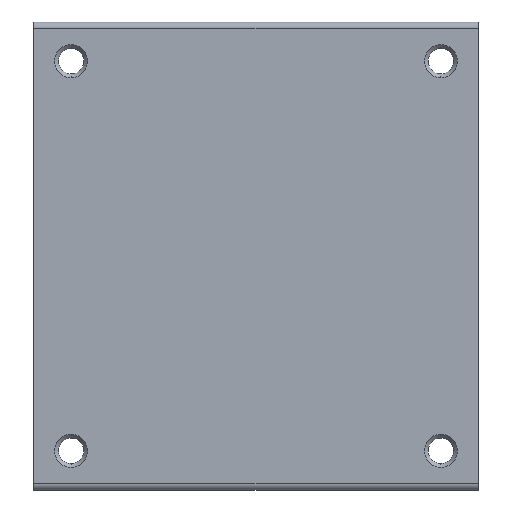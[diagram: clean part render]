
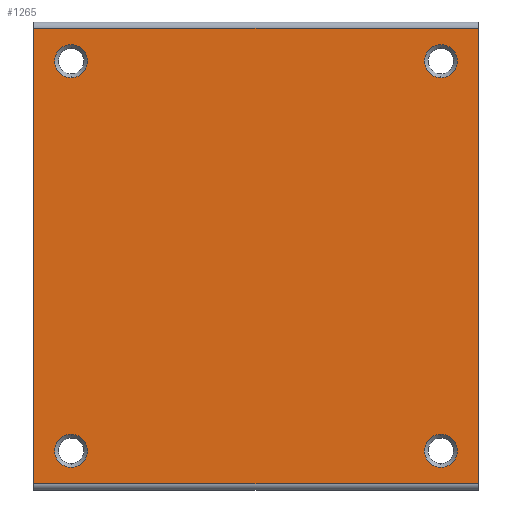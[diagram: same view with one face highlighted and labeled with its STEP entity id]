
A CAD part, front view. The second image highlights one B-rep face of the part: STEP entity #1265.
In plain terms, the highlighted planar face has unit normal (0, -1, 0).
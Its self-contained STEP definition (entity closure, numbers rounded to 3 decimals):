
#92 = EDGE_CURVE ( 'NONE', #1362, #1113, #394, .T. ) ;
#159 = CARTESIAN_POINT ( 'NONE',  ( 24.1, 0., -27.55 ) ) ;
#160 = EDGE_CURVE ( 'NONE', #1856, #747, #2379, .T. ) ;
#187 = DIRECTION ( 'NONE',  ( 0., 1., 0. ) ) ;
#223 = EDGE_CURVE ( 'NONE', #1109, #413, #1919, .T. ) ;
#225 = EDGE_CURVE ( 'NONE', #1856, #902, #673, .T. ) ;
#226 = ORIENTED_EDGE ( 'NONE', *, *, #2508, .T. ) ;
#272 = CIRCLE ( 'NONE', #1876, 2.15 ) ;
#279 = CARTESIAN_POINT ( 'NONE',  ( -24.1, 0., -27.55 ) ) ;
#281 = CARTESIAN_POINT ( 'NONE',  ( -24.1, 0., 25.4 ) ) ;
#315 = CARTESIAN_POINT ( 'NONE',  ( 29., 0., -29.7 ) ) ;
#316 = ORIENTED_EDGE ( 'NONE', *, *, #2646, .T. ) ;
#365 = DIRECTION ( 'NONE',  ( 0., 0., 1. ) ) ;
#372 = VERTEX_POINT ( 'NONE', #1866 ) ;
#385 = CARTESIAN_POINT ( 'NONE',  ( 24.1, 0., 25.4 ) ) ;
#394 = CIRCLE ( 'NONE', #1999, 2.15 ) ;
#399 = VERTEX_POINT ( 'NONE', #1025 ) ;
#406 = DIRECTION ( 'NONE',  ( 0., 0., 1. ) ) ;
#413 = VERTEX_POINT ( 'NONE', #159 ) ;
#414 = CARTESIAN_POINT ( 'NONE',  ( 29., 0., 29.7 ) ) ;
#436 = CARTESIAN_POINT ( 'NONE',  ( -29., 0., 29.7 ) ) ;
#455 = EDGE_LOOP ( 'NONE', ( #2544, #1367, #2712, #2347 ) ) ;
#479 = ORIENTED_EDGE ( 'NONE', *, *, #1269, .T. ) ;
#491 = CARTESIAN_POINT ( 'NONE',  ( 29., 0., 29.7 ) ) ;
#501 = CARTESIAN_POINT ( 'NONE',  ( -24.1, 0., -23.25 ) ) ;
#516 = EDGE_CURVE ( 'NONE', #1343, #1831, #617, .T. ) ;
#617 = CIRCLE ( 'NONE', #999, 2.15 ) ;
#673 = LINE ( 'NONE', #883, #1051 ) ;
#704 = FACE_BOUND ( 'NONE', #1693, .T. ) ;
#738 = DIRECTION ( 'NONE',  ( 0., 0., -1. ) ) ;
#747 = VERTEX_POINT ( 'NONE', #315 ) ;
#763 = ORIENTED_EDGE ( 'NONE', *, *, #92, .T. ) ;
#774 = CARTESIAN_POINT ( 'NONE',  ( 29., 0., 29.7 ) ) ;
#792 = AXIS2_PLACEMENT_3D ( 'NONE', #491, #1370, #2249 ) ;
#807 = CARTESIAN_POINT ( 'NONE',  ( 24.1, 0., 25.4 ) ) ;
#872 = DIRECTION ( 'NONE',  ( -1., 0., 0. ) ) ;
#883 = CARTESIAN_POINT ( 'NONE',  ( 29., 0., 29.7 ) ) ;
#884 = CARTESIAN_POINT ( 'NONE',  ( 24.1, 0., -25.4 ) ) ;
#902 = VERTEX_POINT ( 'NONE', #436 ) ;
#920 = FACE_BOUND ( 'NONE', #1211, .T. ) ;
#942 = CARTESIAN_POINT ( 'NONE',  ( 24.1, 0., 27.55 ) ) ;
#966 = CARTESIAN_POINT ( 'NONE',  ( -24.1, 0., 25.4 ) ) ;
#999 = AXIS2_PLACEMENT_3D ( 'NONE', #1494, #2370, #406 ) ;
#1025 = CARTESIAN_POINT ( 'NONE',  ( -29., 0., -29.7 ) ) ;
#1038 = VECTOR ( 'NONE', #1289, 1000. ) ;
#1051 = VECTOR ( 'NONE', #1760, 1000. ) ;
#1063 = DIRECTION ( 'NONE',  ( 0., 0., 1. ) ) ;
#1066 = CIRCLE ( 'NONE', #2686, 2.15 ) ;
#1109 = VERTEX_POINT ( 'NONE', #2797 ) ;
#1113 = VERTEX_POINT ( 'NONE', #1697 ) ;
#1147 = ORIENTED_EDGE ( 'NONE', *, *, #223, .T. ) ;
#1151 = DIRECTION ( 'NONE',  ( 0., 1., 0. ) ) ;
#1159 = VECTOR ( 'NONE', #872, 1000. ) ;
#1168 = AXIS2_PLACEMENT_3D ( 'NONE', #281, #1151, #2021 ) ;
#1206 = CARTESIAN_POINT ( 'NONE',  ( -24.1, 0., 23.25 ) ) ;
#1211 = EDGE_LOOP ( 'NONE', ( #2250, #316 ) ) ;
#1257 = DIRECTION ( 'NONE',  ( 0., 1., 0. ) ) ;
#1265 = ADVANCED_FACE ( 'NONE', ( #920, #1796, #2674, #704, #1579 ), #2453, .F. ) ;
#1269 = EDGE_CURVE ( 'NONE', #2287, #372, #2386, .T. ) ;
#1289 = DIRECTION ( 'NONE',  ( 0., 0., -1. ) ) ;
#1343 = VERTEX_POINT ( 'NONE', #279 ) ;
#1362 = VERTEX_POINT ( 'NONE', #942 ) ;
#1367 = ORIENTED_EDGE ( 'NONE', *, *, #2107, .F. ) ;
#1370 = DIRECTION ( 'NONE',  ( 0., 1., 0. ) ) ;
#1375 = AXIS2_PLACEMENT_3D ( 'NONE', #1458, #2332, #365 ) ;
#1381 = AXIS2_PLACEMENT_3D ( 'NONE', #966, #1837, #2714 ) ;
#1385 = EDGE_LOOP ( 'NONE', ( #479, #226 ) ) ;
#1414 = EDGE_CURVE ( 'NONE', #902, #399, #1829, .T. ) ;
#1458 = CARTESIAN_POINT ( 'NONE',  ( -24.1, 0., -25.4 ) ) ;
#1494 = CARTESIAN_POINT ( 'NONE',  ( -24.1, 0., -25.4 ) ) ;
#1513 = ORIENTED_EDGE ( 'NONE', *, *, #2037, .T. ) ;
#1542 = EDGE_CURVE ( 'NONE', #1113, #1362, #1066, .T. ) ;
#1579 = FACE_OUTER_BOUND ( 'NONE', #455, .T. ) ;
#1680 = DIRECTION ( 'NONE',  ( 0., 1., 0. ) ) ;
#1693 = EDGE_LOOP ( 'NONE', ( #1513, #1147 ) ) ;
#1694 = VECTOR ( 'NONE', #738, 1000. ) ;
#1697 = CARTESIAN_POINT ( 'NONE',  ( 24.1, 0., 23.25 ) ) ;
#1760 = DIRECTION ( 'NONE',  ( -1., 0., 0. ) ) ;
#1762 = DIRECTION ( 'NONE',  ( 0., 1., 0. ) ) ;
#1792 = ORIENTED_EDGE ( 'NONE', *, *, #1542, .T. ) ;
#1796 = FACE_BOUND ( 'NONE', #1385, .T. ) ;
#1829 = LINE ( 'NONE', #2706, #1694 ) ;
#1831 = VERTEX_POINT ( 'NONE', #501 ) ;
#1837 = DIRECTION ( 'NONE',  ( 0., 1., 0. ) ) ;
#1856 = VERTEX_POINT ( 'NONE', #774 ) ;
#1866 = CARTESIAN_POINT ( 'NONE',  ( -24.1, 0., 27.55 ) ) ;
#1876 = AXIS2_PLACEMENT_3D ( 'NONE', #2147, #187, #1063 ) ;
#1919 = CIRCLE ( 'NONE', #2306, 2.15 ) ;
#1959 = LINE ( 'NONE', #2839, #1159 ) ;
#1999 = AXIS2_PLACEMENT_3D ( 'NONE', #385, #1257, #2126 ) ;
#2021 = DIRECTION ( 'NONE',  ( 0., 0., 1. ) ) ;
#2037 = EDGE_CURVE ( 'NONE', #413, #1109, #272, .T. ) ;
#2107 = EDGE_CURVE ( 'NONE', #747, #399, #1959, .T. ) ;
#2126 = DIRECTION ( 'NONE',  ( 0., 0., 1. ) ) ;
#2147 = CARTESIAN_POINT ( 'NONE',  ( 24.1, 0., -25.4 ) ) ;
#2249 = DIRECTION ( 'NONE',  ( 0., 0., 1. ) ) ;
#2250 = ORIENTED_EDGE ( 'NONE', *, *, #516, .T. ) ;
#2287 = VERTEX_POINT ( 'NONE', #1206 ) ;
#2306 = AXIS2_PLACEMENT_3D ( 'NONE', #884, #1762, #2639 ) ;
#2332 = DIRECTION ( 'NONE',  ( 0., 1., 0. ) ) ;
#2347 = ORIENTED_EDGE ( 'NONE', *, *, #225, .T. ) ;
#2370 = DIRECTION ( 'NONE',  ( 0., 1., 0. ) ) ;
#2379 = LINE ( 'NONE', #414, #1038 ) ;
#2386 = CIRCLE ( 'NONE', #1168, 2.15 ) ;
#2453 = PLANE ( 'NONE',  #792 ) ;
#2461 = EDGE_LOOP ( 'NONE', ( #1792, #763 ) ) ;
#2508 = EDGE_CURVE ( 'NONE', #372, #2287, #2599, .T. ) ;
#2544 = ORIENTED_EDGE ( 'NONE', *, *, #1414, .T. ) ;
#2560 = DIRECTION ( 'NONE',  ( 0., 0., 1. ) ) ;
#2593 = CIRCLE ( 'NONE', #1375, 2.15 ) ;
#2599 = CIRCLE ( 'NONE', #1381, 2.15 ) ;
#2639 = DIRECTION ( 'NONE',  ( 0., 0., 1. ) ) ;
#2646 = EDGE_CURVE ( 'NONE', #1831, #1343, #2593, .T. ) ;
#2674 = FACE_BOUND ( 'NONE', #2461, .T. ) ;
#2686 = AXIS2_PLACEMENT_3D ( 'NONE', #807, #1680, #2560 ) ;
#2706 = CARTESIAN_POINT ( 'NONE',  ( -29., 0., 29.7 ) ) ;
#2712 = ORIENTED_EDGE ( 'NONE', *, *, #160, .F. ) ;
#2714 = DIRECTION ( 'NONE',  ( 0., 0., 1. ) ) ;
#2797 = CARTESIAN_POINT ( 'NONE',  ( 24.1, 0., -23.25 ) ) ;
#2839 = CARTESIAN_POINT ( 'NONE',  ( 29., 0., -29.7 ) ) ;
